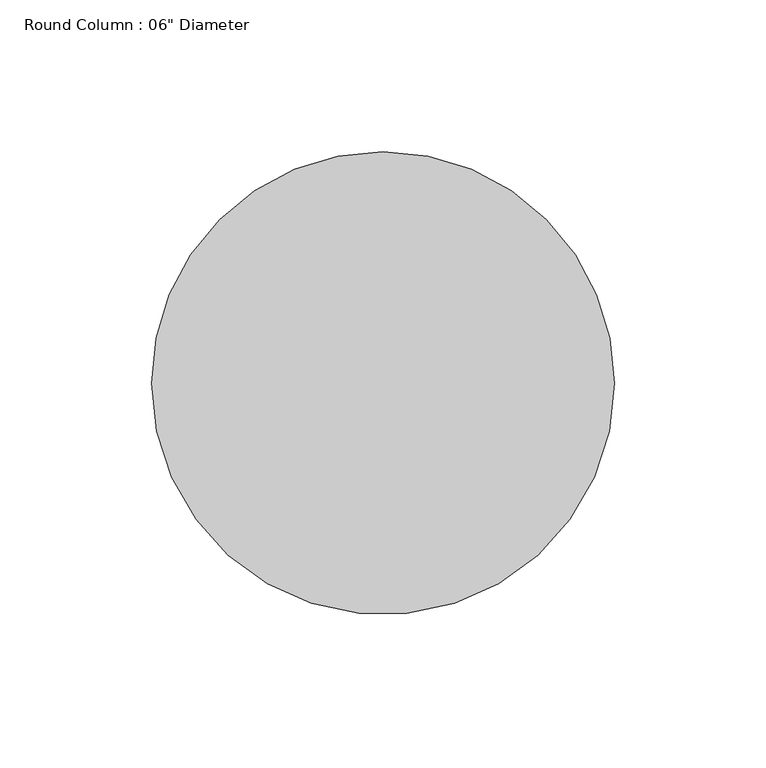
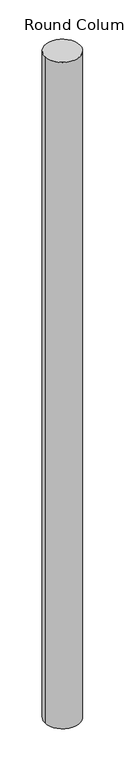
"""IFC4 building model written with IfcOpenShell, lengths in millimetres: column geometry."""

from ifc_helpers import new_model, si_unit, point, origin, origin_with_axes, origin_2d, place, context, project, spatial, circle_curve, trimmed, segment, composite_curve, outline, extrude, source, transform, mapped, element, save


def column_79e7fb11(model_context):
    return source(origin(), model_context, "Body", "SweptSolid", [
        extrude(outline(composite_curve([segment(trimmed(circle_curve(origin_2d(), 76.2), [point((76.2, 0.0))], [point((-76.2, 0.0))], False, "CARTESIAN"), True, "CONTINUOUS"), segment(trimmed(circle_curve(origin_2d(), 76.2), [point((-76.2, 0.0))], [point((0.0, 76.2))], False, "CARTESIAN"), True, "CONTINUOUS"), segment(trimmed(circle_curve(origin_2d(), 76.2), [point((0.0, 76.2))], [point((76.2, 0.0))], False, "CARTESIAN"), True, "CONTINUOUS")], self_intersect=False)), origin_with_axes(), (0.0, 0.0, 1.0), 3048.0),
    ])


if __name__ == "__main__":
    model = new_model("IFC4")
    model_context = context("Model", 3, world=origin())
    ifc_project = project(units=[si_unit("LENGTHUNIT", "METRE", prefix="MILLI")], contexts=[model_context])
    site = spatial("IfcSite", under=ifc_project)
    building = spatial("IfcBuilding", under=site)
    placement = place(None, origin())
    column_shape = column_79e7fb11(model_context)
    element("IfcColumn", 1, ObjectType="Round Column : 06\" Diameter", at=placement, inside=building, context=model_context, shape_type="MappedRepresentation", body=[
        mapped(column_shape, transform((0.0, 0.0, 0.0), x_axis=(1.0, 0.0, 0.0), y_axis=(0.0, 1.0, 0.0), z_axis=(0.0, 0.0, 1.0))),
    ])
    save(model, "model.ifc")
